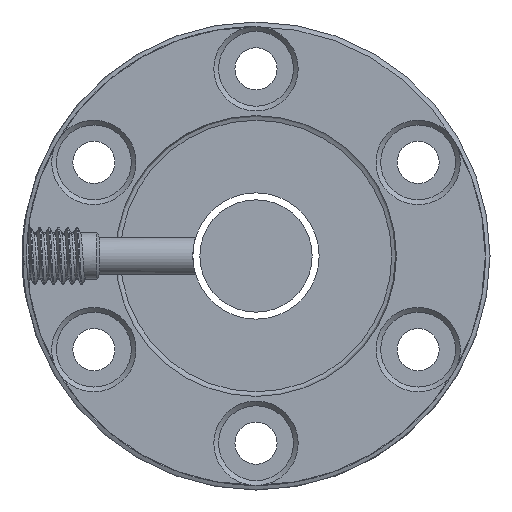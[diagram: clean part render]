
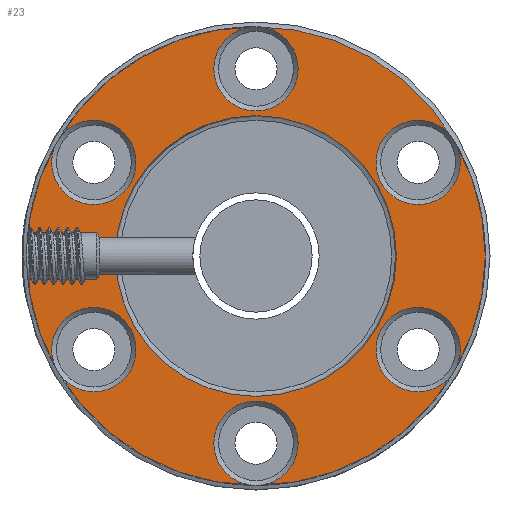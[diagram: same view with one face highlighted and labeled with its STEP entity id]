
A CAD part, left-side view. The second image highlights one B-rep face of the part: STEP entity #23.
In plain terms, the highlighted planar face has unit normal (1, 0, 0).
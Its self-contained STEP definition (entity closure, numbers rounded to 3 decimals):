
#16 = VERTEX_POINT ( 'NONE', #256 ) ;
#23 = ADVANCED_FACE ( 'NONE', ( #1529, #1994, #2895, #1500, #2166, #2445, #2920, #76 ), #2009, .F. ) ;
#55 = DIRECTION ( 'NONE',  ( 0., 0., 1. ) ) ;
#68 = CARTESIAN_POINT ( 'NONE',  ( -43., 17.321, 12.75 ) ) ;
#76 = FACE_BOUND ( 'NONE', #537, .T. ) ;
#106 = EDGE_CURVE ( 'NONE', #1922, #1922, #173, .T. ) ;
#115 = AXIS2_PLACEMENT_3D ( 'NONE', #2741, #1558, #1073 ) ;
#132 = VERTEX_POINT ( 'NONE', #2454 ) ;
#173 = CIRCLE ( 'NONE', #1377, 24.5 ) ;
#204 = CIRCLE ( 'NONE', #1964, 2.75 ) ;
#256 = CARTESIAN_POINT ( 'NONE',  ( -43., -17.321, -7.25 ) ) ;
#307 = EDGE_CURVE ( 'NONE', #2580, #2580, #1481, .T. ) ;
#377 = CARTESIAN_POINT ( 'NONE',  ( -43., 25., 0. ) ) ;
#447 = AXIS2_PLACEMENT_3D ( 'NONE', #879, #2458, #2309 ) ;
#499 = CIRCLE ( 'NONE', #2647, 2.75 ) ;
#537 = EDGE_LOOP ( 'NONE', ( #541 ) ) ;
#540 = CARTESIAN_POINT ( 'NONE',  ( -43., -17.321, 10. ) ) ;
#541 = ORIENTED_EDGE ( 'NONE', *, *, #2061, .F. ) ;
#595 = EDGE_LOOP ( 'NONE', ( #1636 ) ) ;
#632 = DIRECTION ( 'NONE',  ( 0., 0., 1. ) ) ;
#671 = EDGE_LOOP ( 'NONE', ( #793 ) ) ;
#713 = CARTESIAN_POINT ( 'NONE',  ( -43., 0., -20. ) ) ;
#745 = DIRECTION ( 'NONE',  ( 0., 0., 1. ) ) ;
#793 = ORIENTED_EDGE ( 'NONE', *, *, #2967, .T. ) ;
#808 = DIRECTION ( 'NONE',  ( 0., 0., 1. ) ) ;
#810 = EDGE_LOOP ( 'NONE', ( #2678 ) ) ;
#837 = EDGE_LOOP ( 'NONE', ( #1124 ) ) ;
#879 = CARTESIAN_POINT ( 'NONE',  ( -43., 0., 0. ) ) ;
#924 = CIRCLE ( 'NONE', #115, 2.75 ) ;
#988 = CARTESIAN_POINT ( 'NONE',  ( -43., 0., 24.5 ) ) ;
#993 = AXIS2_PLACEMENT_3D ( 'NONE', #377, #1302, #2819 ) ;
#1037 = EDGE_LOOP ( 'NONE', ( #1266 ) ) ;
#1073 = DIRECTION ( 'NONE',  ( 0., 0., 1. ) ) ;
#1096 = DIRECTION ( 'NONE',  ( -1., 0., 0. ) ) ;
#1124 = ORIENTED_EDGE ( 'NONE', *, *, #2756, .T. ) ;
#1142 = DIRECTION ( 'NONE',  ( 0., 0., 1. ) ) ;
#1167 = VERTEX_POINT ( 'NONE', #68 ) ;
#1230 = CARTESIAN_POINT ( 'NONE',  ( -43., 0., -17.25 ) ) ;
#1236 = EDGE_LOOP ( 'NONE', ( #1714 ) ) ;
#1266 = ORIENTED_EDGE ( 'NONE', *, *, #1697, .T. ) ;
#1302 = DIRECTION ( 'NONE',  ( -1., 0., 0. ) ) ;
#1377 = AXIS2_PLACEMENT_3D ( 'NONE', #1969, #1698, #808 ) ;
#1410 = CIRCLE ( 'NONE', #1459, 2.75 ) ;
#1412 = CIRCLE ( 'NONE', #447, 15. ) ;
#1459 = AXIS2_PLACEMENT_3D ( 'NONE', #2945, #2259, #632 ) ;
#1481 = CIRCLE ( 'NONE', #1869, 2.75 ) ;
#1500 = FACE_BOUND ( 'NONE', #1037, .T. ) ;
#1513 = CIRCLE ( 'NONE', #2740, 2.75 ) ;
#1521 = CARTESIAN_POINT ( 'NONE',  ( -43., 0., -15. ) ) ;
#1529 = FACE_OUTER_BOUND ( 'NONE', #595, .T. ) ;
#1558 = DIRECTION ( 'NONE',  ( -1., 0., 0. ) ) ;
#1569 = EDGE_CURVE ( 'NONE', #1167, #1167, #1513, .T. ) ;
#1636 = ORIENTED_EDGE ( 'NONE', *, *, #106, .T. ) ;
#1645 = CARTESIAN_POINT ( 'NONE',  ( -43., 17.321, 10. ) ) ;
#1697 = EDGE_CURVE ( 'NONE', #2110, #2110, #1410, .T. ) ;
#1698 = DIRECTION ( 'NONE',  ( 1., 0., 0. ) ) ;
#1714 = ORIENTED_EDGE ( 'NONE', *, *, #1569, .T. ) ;
#1737 = EDGE_CURVE ( 'NONE', #16, #16, #924, .T. ) ;
#1869 = AXIS2_PLACEMENT_3D ( 'NONE', #540, #2364, #55 ) ;
#1871 = EDGE_LOOP ( 'NONE', ( #2220 ) ) ;
#1922 = VERTEX_POINT ( 'NONE', #988 ) ;
#1964 = AXIS2_PLACEMENT_3D ( 'NONE', #713, #2840, #745 ) ;
#1969 = CARTESIAN_POINT ( 'NONE',  ( -43., 0., 0. ) ) ;
#1973 = VERTEX_POINT ( 'NONE', #1230 ) ;
#1994 = FACE_BOUND ( 'NONE', #1871, .T. ) ;
#2009 = PLANE ( 'NONE',  #993 ) ;
#2061 = EDGE_CURVE ( 'NONE', #2643, #2643, #1412, .T. ) ;
#2110 = VERTEX_POINT ( 'NONE', #2357 ) ;
#2127 = CARTESIAN_POINT ( 'NONE',  ( -43., -17.321, 12.75 ) ) ;
#2166 = FACE_BOUND ( 'NONE', #1236, .T. ) ;
#2220 = ORIENTED_EDGE ( 'NONE', *, *, #1737, .T. ) ;
#2254 = CARTESIAN_POINT ( 'NONE',  ( -43., 17.321, -10. ) ) ;
#2259 = DIRECTION ( 'NONE',  ( -1., 0., 0. ) ) ;
#2309 = DIRECTION ( 'NONE',  ( 0., 0., -1. ) ) ;
#2357 = CARTESIAN_POINT ( 'NONE',  ( -43., 0., 22.75 ) ) ;
#2364 = DIRECTION ( 'NONE',  ( -1., 0., 0. ) ) ;
#2445 = FACE_BOUND ( 'NONE', #837, .T. ) ;
#2454 = CARTESIAN_POINT ( 'NONE',  ( -43., 17.321, -7.25 ) ) ;
#2458 = DIRECTION ( 'NONE',  ( 1., 0., 0. ) ) ;
#2575 = DIRECTION ( 'NONE',  ( 0., 0., 1. ) ) ;
#2580 = VERTEX_POINT ( 'NONE', #2127 ) ;
#2643 = VERTEX_POINT ( 'NONE', #1521 ) ;
#2647 = AXIS2_PLACEMENT_3D ( 'NONE', #2254, #1096, #1142 ) ;
#2678 = ORIENTED_EDGE ( 'NONE', *, *, #307, .T. ) ;
#2740 = AXIS2_PLACEMENT_3D ( 'NONE', #1645, #2803, #2575 ) ;
#2741 = CARTESIAN_POINT ( 'NONE',  ( -43., -17.321, -10. ) ) ;
#2756 = EDGE_CURVE ( 'NONE', #132, #132, #499, .T. ) ;
#2803 = DIRECTION ( 'NONE',  ( -1., 0., 0. ) ) ;
#2819 = DIRECTION ( 'NONE',  ( 0., 0., 1. ) ) ;
#2840 = DIRECTION ( 'NONE',  ( -1., 0., 0. ) ) ;
#2895 = FACE_BOUND ( 'NONE', #810, .T. ) ;
#2920 = FACE_BOUND ( 'NONE', #671, .T. ) ;
#2945 = CARTESIAN_POINT ( 'NONE',  ( -43., 0., 20. ) ) ;
#2967 = EDGE_CURVE ( 'NONE', #1973, #1973, #204, .T. ) ;
